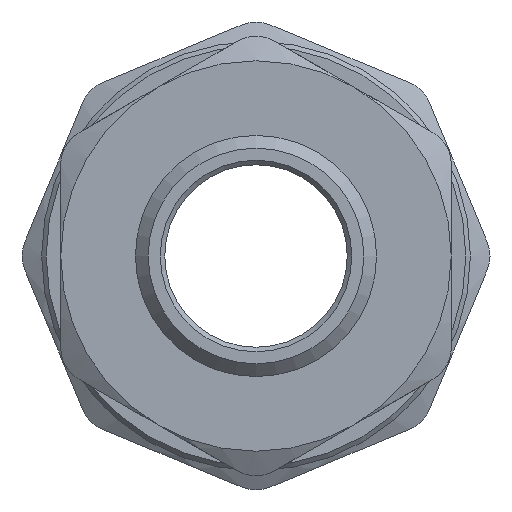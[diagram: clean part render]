
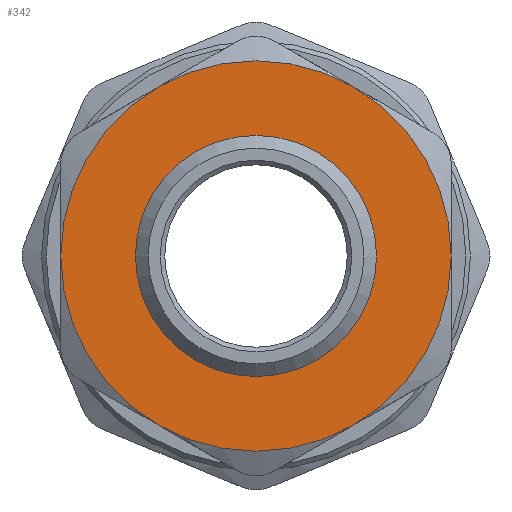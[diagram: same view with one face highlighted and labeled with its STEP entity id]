
A CAD part, front view. The second image highlights one B-rep face of the part: STEP entity #342.
In plain terms, the highlighted planar face has unit normal (0, -1, 0).
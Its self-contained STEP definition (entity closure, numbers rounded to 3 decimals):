
#342=ADVANCED_FACE('',(#2363,#2365),#2367,.T.);
#2363=FACE_BOUND('',#2364,.T.);
#2364=EDGE_LOOP('',(#4604,#4605));
#2365=FACE_BOUND('',#2366,.T.);
#2366=EDGE_LOOP('',(#4606));
#2367=PLANE('',#2368);
#2368=AXIS2_PLACEMENT_3D('',#2369,#2370,#2371);
#2369=CARTESIAN_POINT('',(0.,15.,0.));
#2370=DIRECTION('',(0.,-1.,0.));
#2371=DIRECTION('',(1.,0.,0.));
#4604=ORIENTED_EDGE('',*,*,#5494,.T.);
#4605=ORIENTED_EDGE('',*,*,#5495,.T.);
#4606=ORIENTED_EDGE('',*,*,#5506,.T.);
#5494=EDGE_CURVE('',#6250,#6230,#6851,.F.);
#5495=EDGE_CURVE('',#6230,#6250,#6852,.F.);
#5506=EDGE_CURVE('',#6873,#6873,#6874,.T.);
#6230=VERTEX_POINT('',#10096);
#6250=VERTEX_POINT('',#10430);
#6851=CIRCLE('',#12641,21.4);
#6852=CIRCLE('',#12645,21.4);
#6873=VERTEX_POINT('',#12691);
#6874=CIRCLE('',#12692,13.221);
#10096=CARTESIAN_POINT('',(-10.7,15.,-18.533));
#10430=CARTESIAN_POINT('',(21.4,15.,0.));
#12641=AXIS2_PLACEMENT_3D('',#12642,#12643,#12644);
#12642=CARTESIAN_POINT('',(0.,15.,0.));
#12643=DIRECTION('',(0.,1.,0.));
#12644=DIRECTION('',(-0.5,0.,-0.866));
#12645=AXIS2_PLACEMENT_3D('',#12646,#12647,#12648);
#12646=CARTESIAN_POINT('',(0.,15.,0.));
#12647=DIRECTION('',(0.,1.,0.));
#12648=DIRECTION('',(1.,0.,0.));
#12691=CARTESIAN_POINT('',(-13.221,15.,0.));
#12692=AXIS2_PLACEMENT_3D('',#12693,#12694,#12695);
#12693=CARTESIAN_POINT('',(0.,15.,0.));
#12694=DIRECTION('',(0.,1.,0.));
#12695=DIRECTION('',(-1.,0.,0.));
